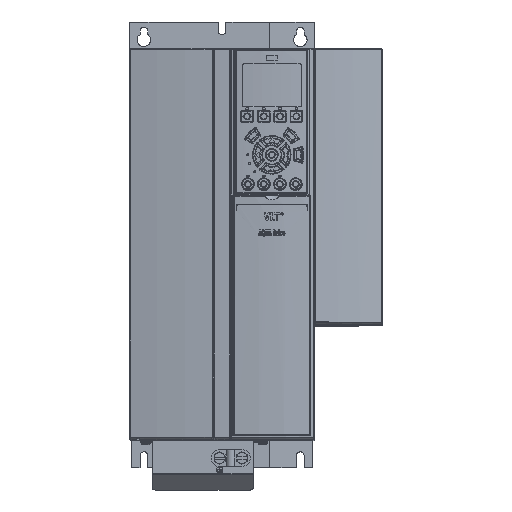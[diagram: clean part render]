
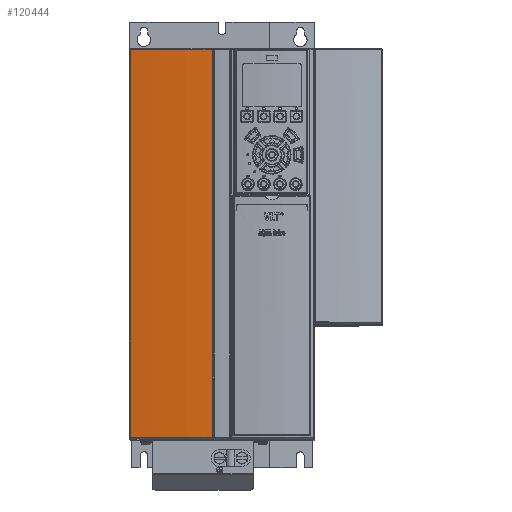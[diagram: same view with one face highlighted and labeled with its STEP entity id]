
A CAD part, top view. The second image highlights one B-rep face of the part: STEP entity #120444.
In plain terms, the highlighted cylindrical face has radius 574.02 mm (diameter 1148.04 mm), a partial arc.
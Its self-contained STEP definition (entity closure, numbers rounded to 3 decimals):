
#37838=DIRECTION('',(0.,-1.,0.));
#37839=VECTOR('',#37838,346.896);
#37840=CARTESIAN_POINT('',(-82.111,174.5,232.048));
#37841=LINE('',#37840,#37839);
#37845=CARTESIAN_POINT('',(44.923,174.5,-327.738));
#37846=DIRECTION('',(0.,1.,0.));
#37847=DIRECTION('',(-0.221,0.,0.975));
#37848=AXIS2_PLACEMENT_3D('',#37845,#37846,#37847);
#37853=DIRECTION('',(0.,1.,0.));
#37854=VECTOR('',#37853,346.896);
#37855=CARTESIAN_POINT('',(-8.928,-172.396,
243.75));
#37856=LINE('',#37855,#37854);
#37860=CARTESIAN_POINT('',(44.923,-172.396,
-327.738));
#37861=DIRECTION('',(0.,1.,0.));
#37862=DIRECTION('',(-0.221,0.,0.975));
#37863=AXIS2_PLACEMENT_3D('',#37860,#37861,#37862);
#37868=CARTESIAN_POINT('',(-82.111,-172.396,
232.048));
#37869=CARTESIAN_POINT('',(-82.108,-172.396,
232.049));
#37870=CARTESIAN_POINT('',(-82.103,-172.396,
232.05));
#37871=CARTESIAN_POINT('',(-82.097,-172.396,
232.052));
#37872=CARTESIAN_POINT('',(-82.094,-172.396,
232.052));
#37877=CARTESIAN_POINT('',(-82.111,174.5,232.048));
#37904=CARTESIAN_POINT('',(-82.111,-172.396,
232.048));
#37926=CARTESIAN_POINT('',(-8.928,174.5,
243.75));
#78092=VERTEX_POINT('',#37904);
#78094=VERTEX_POINT('',#37872);
#78140=VERTEX_POINT('',#37926);
#78144=CARTESIAN_POINT('',(-8.928,-172.396,
243.75));
#78145=VERTEX_POINT('',#78144);
#79221=VERTEX_POINT('',#37877);
#120428=CARTESIAN_POINT('',(44.923,-175.,-327.738));
#120429=DIRECTION('',(0.,1.,0.));
#120430=DIRECTION('',(0.,0.,1.));
#120431=AXIS2_PLACEMENT_3D('',#120428,#120429,#120430);
#120432=CYLINDRICAL_SURFACE('',#120431,574.02);
#120434=ORIENTED_EDGE('',*,*,#120433,.F.);
#120436=ORIENTED_EDGE('',*,*,#120435,.T.);
#120437=ORIENTED_EDGE('',*,*,#120418,.F.);
#120439=ORIENTED_EDGE('',*,*,#120438,.F.);
#120441=ORIENTED_EDGE('',*,*,#120440,.F.);
#120442=EDGE_LOOP('',(#120434,#120436,#120437,#120439,#120441));
#120443=FACE_OUTER_BOUND('',#120442,.F.);
#120444=ADVANCED_FACE('',(#120443),#120432,.T.);
#37849=CIRCLE('',#37848,574.02);
#37864=CIRCLE('',#37863,574.02);
#37873=B_SPLINE_CURVE_WITH_KNOTS('',3,(#37868,#37869,#37870,#37871,#37872),
.UNSPECIFIED.,.F.,.F.,(4,1,4),(0.,0.5,1.),.UNSPECIFIED.);
#120418=EDGE_CURVE('',#78145,#78140,#37856,.T.);
#120433=EDGE_CURVE('',#79221,#78092,#37841,.T.);
#120435=EDGE_CURVE('',#79221,#78140,#37849,.T.);
#120438=EDGE_CURVE('',#78094,#78145,#37864,.T.);
#120440=EDGE_CURVE('',#78092,#78094,#37873,.T.);
